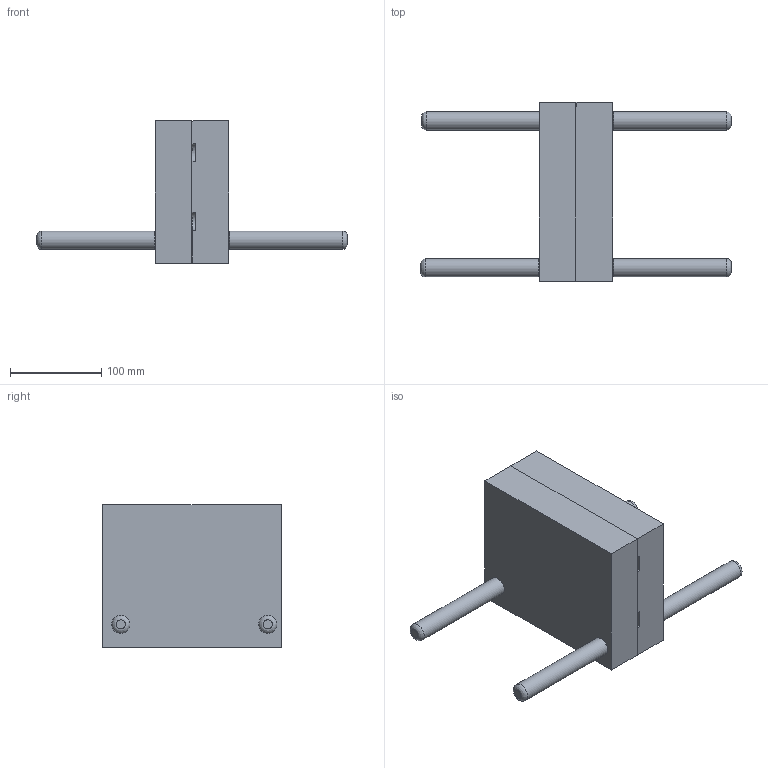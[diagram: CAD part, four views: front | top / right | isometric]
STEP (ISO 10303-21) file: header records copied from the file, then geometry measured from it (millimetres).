
FILE_DESCRIPTION(/* description */ (''),/* implementation_level */ '2;1');
FILE_NAME(/* name */ 'HEADTUBELUGUP.step',/* time_stamp */ '2023-08-26T16:52:10+02:00',/* author */ (''),/* organization */ (''),/* preprocessor_version */ 'ST-DEVELOPER v20',/* originating_system */ 'Autodesk Translation Framework v12.9.0.99',/* authorisation */ '');
FILE_SCHEMA (('AUTOMOTIVE_DESIGN { 1 0 10303 214 3 1 1 }'));
Length unit declared in the file: millimetre
Products named in the file (23): HEADTUBELUGUP; HeadTubeLugUp_1; NOYAU DIM FINALE BAS FORME; NOYAU DIM FINALE HAUT FORME; NOYAU SABLE DIM FINALE; NOYAU  SABLE SUREP; NOYAU DIM FINALE HAUT; NOYAU DIM FINALE BAS; BARRE NOYAU; HTLU USINE; HTLU AVEC NOYAU SUREPAISSEUR; HTLU AVEC NOYAU DIM FINALES; ALIMENTATION VERSION 1; POIGNEES FONDERIE v1; POIGNEE DE GUIDAGE; POIGNEE SIMPLE; POIGNEE DE GUIDAGE (1); POIGNEE SIMPLE (1); MOULE DROITE; MOULE GAUCHE; VISSERIE; E 1200_4x20; E 1200_4x12
Assembly tree (24 placements, depth 4):
  HEADTUBELUGUP
    HeadTubeLugUp_1
      NOYAU DIM FINALE BAS FORME
      NOYAU DIM FINALE HAUT FORME
      NOYAU SABLE DIM FINALE
      NOYAU  SABLE SUREP
      NOYAU DIM FINALE HAUT
      NOYAU DIM FINALE BAS
      BARRE NOYAU
      HTLU USINE
      HTLU AVEC NOYAU SUREPAISSEUR
      HTLU AVEC NOYAU DIM FINALES
      ALIMENTATION VERSION 1
      POIGNEES FONDERIE v1
        POIGNEE DE GUIDAGE
        POIGNEE SIMPLE
        POIGNEE DE GUIDAGE (1)
        POIGNEE SIMPLE (1)
    MOULE DROITE
    MOULE GAUCHE
    VISSERIE
      E 1200_4x20  x2
      E 1200_4x12  x2
Bounding box: 340.45 x 196.05 x 156.05 mm (x, y, z)
Volume: 2883935.2 mm3; surface area: 366349.9 mm2
Topology: 21 solids, 21 shells, 445 faces, 1084 edges, 696 vertices
Faces by surface type: plane 204, cylinder 107, bspline 93, torus 21, cone 20
Full cylindrical faces by diameter (mm): 3.332 x4, 4 x4, 4.5 x4, 7 x4, 8 x4, 9.7 x2, 10 x10, 10.274 x4, 11.834 x4, 20 x4, 31.7 x1, 35.1 x2, 38.3 x7
Entity records: 20036 total; most frequent: CARTESIAN_POINT 9861, ORIENTED_EDGE 2040, DIRECTION 1888, EDGE_CURVE 1020, AXIS2_PLACEMENT_3D 703, VERTEX_POINT 654, LINE 482, VECTOR 482
